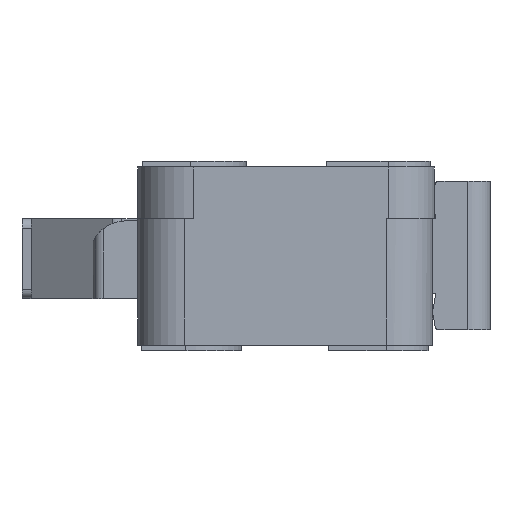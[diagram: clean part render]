
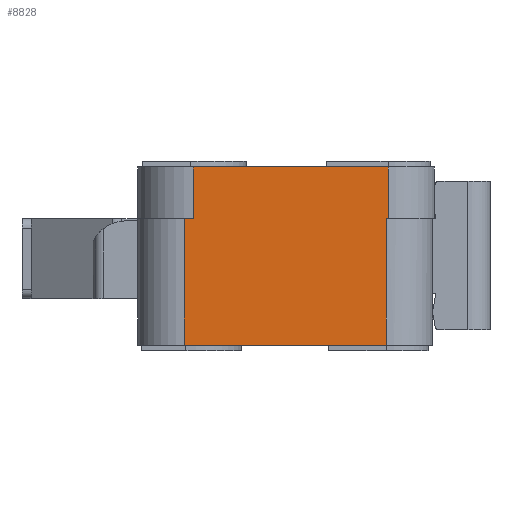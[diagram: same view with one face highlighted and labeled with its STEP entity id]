
A CAD part, left-side view. The second image highlights one B-rep face of the part: STEP entity #8828.
In plain terms, the highlighted planar face has unit normal (-1, 0, 0).
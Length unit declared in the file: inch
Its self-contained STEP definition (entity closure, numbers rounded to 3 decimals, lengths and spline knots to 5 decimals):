
#949=DIRECTION('',(0.,1.,0.));
#950=VECTOR('',#949,0.5);
#951=CARTESIAN_POINT('',(0.,12.9,0.));
#952=LINE('',#951,#950);
#1026=DIRECTION('',(0.,0.,1.));
#1027=VECTOR('',#1026,2.8);
#1028=CARTESIAN_POINT('',(0.,12.9,0.));
#1029=LINE('',#1028,#1027);
#1030=DIRECTION('',(0.,-1.,0.));
#1031=VECTOR('',#1030,10.5);
#1032=CARTESIAN_POINT('',(0.,12.9,2.8));
#1033=LINE('',#1032,#1031);
#1034=DIRECTION('',(0.,0.,-1.));
#1035=VECTOR('',#1034,6.8);
#1036=CARTESIAN_POINT('',(0.,2.5,0.));
#1037=LINE('',#1036,#1035);
#1038=DIRECTION('',(0.,1.,0.));
#1039=VECTOR('',#1038,10.9);
#1040=CARTESIAN_POINT('',(0.,2.5,-6.8));
#1041=LINE('',#1040,#1039);
#1042=DIRECTION('',(0.,0.,1.));
#1043=VECTOR('',#1042,2.8);
#1044=CARTESIAN_POINT('',(0.00075,2.40003,0.));
#1045=LINE('',#1044,#1043);
#1055=CARTESIAN_POINT('',(0.00025,2.44993,
0.));
#1056=CARTESIAN_POINT('',(0.00025,2.45826,
0.));
#1057=CARTESIAN_POINT('',(-0.00013,2.47493,
0.));
#1058=CARTESIAN_POINT('',(0.,2.49164,0.));
#1059=CARTESIAN_POINT('',(0.,2.5,0.));
#1061=CARTESIAN_POINT('',(0.00075,2.40003,0.));
#1062=CARTESIAN_POINT('',(0.00075,2.40837,0.));
#1063=CARTESIAN_POINT('',(-0.0005,2.42499,
0.));
#1064=CARTESIAN_POINT('',(0.00025,2.44163,
0.));
#1065=CARTESIAN_POINT('',(0.00025,2.44993,
0.));
#5180=DIRECTION('',(0.,0.,-1.));
#5181=VECTOR('',#5180,6.8);
#5182=CARTESIAN_POINT('',(0.,13.4,0.));
#5183=LINE('',#5182,#5181);
#5471=CARTESIAN_POINT('',(0.,13.4,-6.8));
#5472=VERTEX_POINT('',#5471);
#5473=CARTESIAN_POINT('',(0.,2.5,-6.8));
#5474=VERTEX_POINT('',#5473);
#5509=CARTESIAN_POINT('',(0.,13.4,0.));
#5510=VERTEX_POINT('',#5509);
#6197=CARTESIAN_POINT('',(0.,12.9,2.8));
#6199=VERTEX_POINT('',#6197);
#6211=CARTESIAN_POINT('',(0.,2.4,2.8));
#6212=VERTEX_POINT('',#6211);
#6594=CARTESIAN_POINT('',(0.002,2.40008,
0.));
#6595=VERTEX_POINT('',#6594);
#6596=VERTEX_POINT('',#1065);
#6597=VERTEX_POINT('',#1059);
#6623=CARTESIAN_POINT('',(0.,12.9,0.));
#6625=VERTEX_POINT('',#6623);
#8806=CARTESIAN_POINT('',(0.,7.95,-3.4));
#8807=DIRECTION('',(1.,0.,0.));
#8808=DIRECTION('',(0.,-1.,0.));
#8809=AXIS2_PLACEMENT_3D('',#8806,#8807,#8808);
#8810=PLANE('',#8809);
#8811=ORIENTED_EDGE('',*,*,#8731,.F.);
#8812=ORIENTED_EDGE('',*,*,#8720,.T.);
#8813=ORIENTED_EDGE('',*,*,#8677,.T.);
#8815=ORIENTED_EDGE('',*,*,#8814,.F.);
#8817=ORIENTED_EDGE('',*,*,#8816,.T.);
#8819=ORIENTED_EDGE('',*,*,#8818,.T.);
#8821=ORIENTED_EDGE('',*,*,#8820,.T.);
#8823=ORIENTED_EDGE('',*,*,#8822,.T.);
#8825=ORIENTED_EDGE('',*,*,#8824,.F.);
#8826=EDGE_LOOP('',(#8811,#8812,#8813,#8815,#8817,#8819,#8821,#8823,#8825));
#8827=FACE_OUTER_BOUND('',#8826,.F.);
#8828=ADVANCED_FACE('',(#8827),#8810,.F.);
#1060=B_SPLINE_CURVE_WITH_KNOTS('',3,(#1055,#1056,#1057,#1058,#1059),
.UNSPECIFIED.,.F.,.F.,(4,1,4),(0.,0.5,1.),.UNSPECIFIED.);
#1066=B_SPLINE_CURVE_WITH_KNOTS('',3,(#1061,#1062,#1063,#1064,#1065),
.UNSPECIFIED.,.F.,.F.,(4,1,4),(0.,0.5,1.),.UNSPECIFIED.);
#8677=EDGE_CURVE('',#6199,#6212,#1033,.T.);
#8720=EDGE_CURVE('',#6625,#6199,#1029,.T.);
#8731=EDGE_CURVE('',#6625,#5510,#952,.T.);
#8814=EDGE_CURVE('',#6595,#6212,#1045,.T.);
#8816=EDGE_CURVE('',#6595,#6596,#1066,.T.);
#8818=EDGE_CURVE('',#6596,#6597,#1060,.T.);
#8820=EDGE_CURVE('',#6597,#5474,#1037,.T.);
#8822=EDGE_CURVE('',#5474,#5472,#1041,.T.);
#8824=EDGE_CURVE('',#5510,#5472,#5183,.T.);
